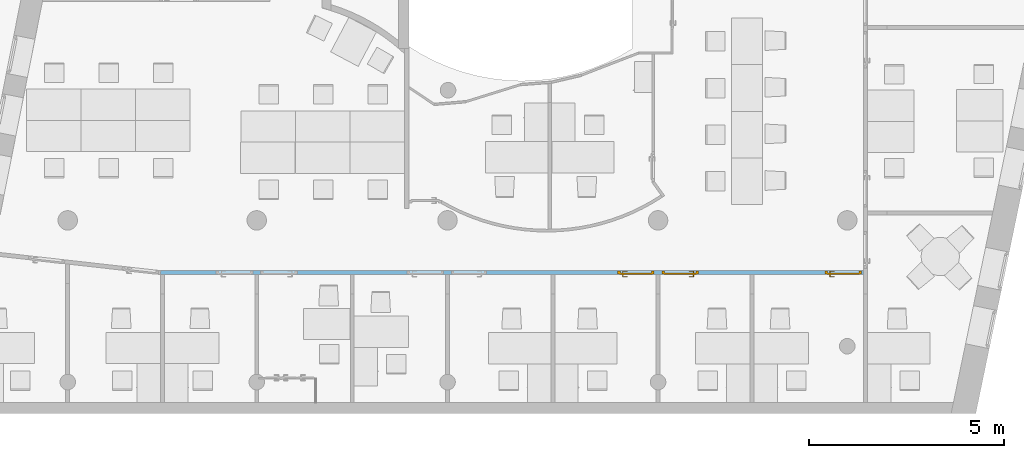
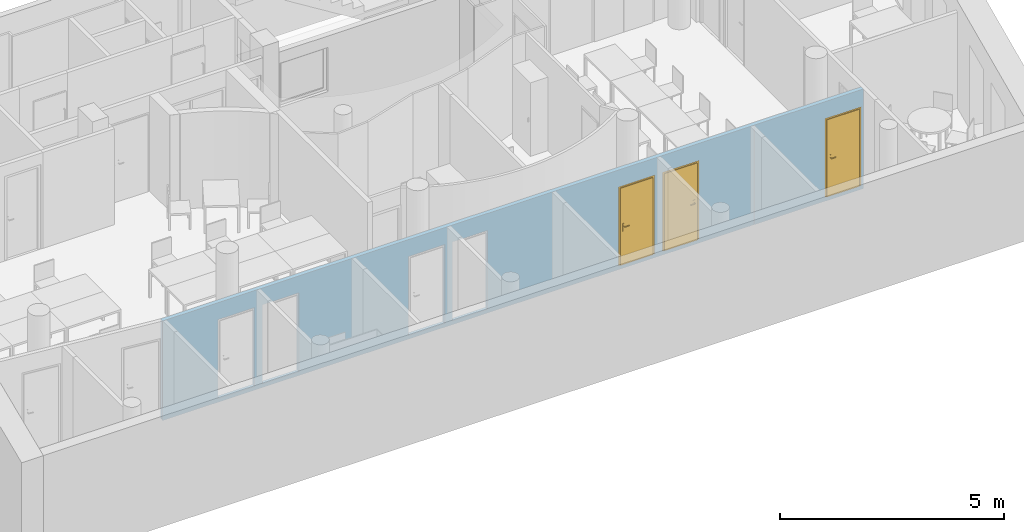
"""IFC4 building model written with IfcOpenShell, lengths in metres."""

from ifc_helpers import new_model, entity, si_unit, converted_unit, derived_unit, frame, origin, origin_with_axes, place, context, subcontext, project, spatial, polyline, outline, extrude, faceted_brep, source, transform, mapped, material, layer, layer_set, layer_usage, element, fill, save


model = new_model("IFC4")

# Units and contexts
model_context = context("Model", 3, precision=1e-05, world=origin())
body_context = subcontext(model_context, "Body", "Model", "MODEL_VIEW")
ifc_project = project(units=[si_unit("LENGTHUNIT", "METRE"), si_unit("AREAUNIT", "SQUARE_METRE"), si_unit("VOLUMEUNIT", "CUBIC_METRE"), si_unit("MASSUNIT", "GRAM", prefix="KILO"), converted_unit("PLANEANGLEUNIT", "DEGREE", entity("IfcPlaneAngleMeasure", 0.0174532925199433), si_unit("PLANEANGLEUNIT", "RADIAN"), dimensions=[0, 0, 0, 0, 0, 0, 0]), derived_unit("THERMALTRANSMITTANCEUNIT", [(si_unit("POWERUNIT", "WATT"), 1), (si_unit("THERMODYNAMICTEMPERATUREUNIT", "KELVIN"), -1), (si_unit("LENGTHUNIT", "METRE"), -2)]), derived_unit("VOLUMETRICFLOWRATEUNIT", [(si_unit("LENGTHUNIT", "METRE"), 3), (converted_unit("TIMEUNIT", "hour", entity("IfcTimeMeasure", 3600.0), si_unit("TIMEUNIT", "SECOND"), dimensions=[0, 0, 1, 0, 0, 0, 0]), -1), (si_unit("LENGTHUNIT", "METRE"), -1)])], contexts=[model_context])

# Building, storeys
building_placement = place(None, origin())
building = spatial("IfcBuilding", under=ifc_project, at=building_placement, Name="HABITATGE PLURIFAMILIAR", CompositionType="ELEMENT")
storey_1_placement = place(building_placement, frame((0.0, 0.0, 6.25)))
storey_1 = spatial("IfcBuildingStorey", under=building, at=storey_1_placement, Name="PLANTA PRIMERA", CompositionType="ELEMENT", Elevation=6.25)
storey_2_placement = place(storey_1_placement, frame((0.0, 0.0, 3.35)))
storey_2 = spatial("IfcBuildingStorey", under=storey_1, at=storey_2_placement, Name="NOU", CompositionType="PARTIAL")

# Wall, openings, doors
ifc_material = material()
ifc_layer = layer(ifc_material, 0.1)
ifc_layer_set = layer_set([ifc_layer])
ifc_layer_usage = layer_usage(ifc_layer_set, "AXIS2", "POSITIVE", 0.0)
wall_placement = place(storey_2_placement, frame((421.406984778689, 16.5094598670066, -3.45), z_axis=(0.0, 0.0, 1.0), x_axis=(-1.0, 0.0, 0.0)))
wall = element("IfcWall", 1, at=wall_placement, inside=storey_2, material=ifc_layer_usage, Name="Mampara P1", context=body_context, shape_type="SweptSolid", body=[
    extrude(outline(polyline([(-18.0374183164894, -0.1), (-0.00561454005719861, -0.1), (0.0, 0.0), (-15.1276972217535, 0.0), (-15.1276972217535, -0.000949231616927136), (-15.2276972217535, -0.000949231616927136), (-15.2276972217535, 0.0), (-18.0374183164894, 0.0), (-18.0374183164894, -0.1)])), frame((18.0374183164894, 0.1, 0.0), z_axis=(0.0, 0.0, 1.0), x_axis=(1.0, 0.0, 0.0)), (0.0, 0.0, 1.0), 2.71),
])
opening_1_placement = place(wall_placement, frame((0.99, 0.1, 0.1), z_axis=(0.0, -1.0, 0.0), x_axis=(0.0, 0.0, 1.0)))
opening_1 = element("IfcOpeningElement", 2, at=opening_1_placement, cuts=wall, Name="Vano de puerta P1", ObjectType="Opening", context=body_context, shape_type="SweptSolid", body=[
    extrude(outline(polyline([(2.15, 0.94), (2.15, 0.0), (0.0, 0.0), (0.0, 0.94), (2.15, 0.94)])), origin_with_axes(), (0.0, 0.0, 1.0), 0.1),
])
opening_2_placement = place(wall_placement, frame((4.22887875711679, 0.0, 0.1), z_axis=(0.0, 1.0, 0.0), x_axis=(0.0, 0.0, 1.0)))
opening_2 = element("IfcOpeningElement", 3, at=opening_2_placement, cuts=wall, Name="Vano de puerta P1", ObjectType="Opening", context=body_context, shape_type="SweptSolid", body=[
    extrude(outline(polyline([(2.15, 0.94), (2.15, 0.0), (0.0, 0.0), (0.0, 0.94), (2.15, 0.94)])), origin_with_axes(), (0.0, 0.0, 1.0), 0.1),
])
opening_3_placement = place(wall_placement, frame((5.36887875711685, 0.0, 0.1), z_axis=(0.0, 1.0, 0.0), x_axis=(0.0, 0.0, 1.0)))
opening_3 = element("IfcOpeningElement", 4, at=opening_3_placement, cuts=wall, Name="Vano de puerta P1", ObjectType="Opening", context=body_context, shape_type="SweptSolid", body=[
    extrude(outline(polyline([(2.15, 0.94), (2.15, 0.0), (0.0, 0.0), (0.0, 0.94), (2.15, 0.94)])), origin_with_axes(), (0.0, 0.0, 1.0), 0.1),
])
opening_4_placement = place(wall_placement, frame((9.6709060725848, 0.0, 0.1), z_axis=(0.0, 1.0, 0.0), x_axis=(0.0, 0.0, 1.0)))
element("IfcOpeningElement", 5, at=opening_4_placement, cuts=wall, Name="Vano de puerta P1", ObjectType="Opening", context=body_context, shape_type="SweptSolid", body=[
    extrude(outline(polyline([(2.15, 0.899999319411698), (2.15, 0.0), (0.0, 0.0), (0.0, 0.899999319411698), (2.15, 0.899999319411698)])), origin_with_axes(), (0.0, 0.0, 1.0), 0.1),
])
opening_5_placement = place(wall_placement, frame((10.7720101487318, 0.0, 0.1), z_axis=(0.0, 1.0, 0.0), x_axis=(0.0, 0.0, 1.0)))
element("IfcOpeningElement", 6, at=opening_5_placement, cuts=wall, Name="Vano de puerta P1", ObjectType="Opening", context=body_context, shape_type="SweptSolid", body=[
    extrude(outline(polyline([(2.15, 0.94), (2.15, 0.0), (0.0, 0.0), (0.0, 0.94), (2.15, 0.94)])), origin_with_axes(), (0.0, 0.0, 1.0), 0.1),
])
opening_6_placement = place(wall_placement, frame((14.5286824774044, 0.0, 0.1), z_axis=(0.0, 1.0, 0.0), x_axis=(0.0, 0.0, 1.0)))
element("IfcOpeningElement", 7, at=opening_6_placement, cuts=wall, Name="Vano de puerta P1", ObjectType="Opening", context=body_context, shape_type="SweptSolid", body=[
    extrude(outline(polyline([(2.15, 0.94), (2.15, 0.0), (0.0, 0.0), (0.0, 0.94), (2.15, 0.94)])), origin_with_axes(), (0.0, 0.0, 1.0), 0.1),
])
opening_7_placement = place(wall_placement, frame((15.6697872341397, 0.0, 0.1), z_axis=(0.0, 1.0, 0.0), x_axis=(0.0, 0.0, 1.0)))
element("IfcOpeningElement", 8, at=opening_7_placement, cuts=wall, Name="Vano de puerta P1", ObjectType="Opening", context=body_context, shape_type="SweptSolid", body=[
    extrude(outline(polyline([(2.15, 0.94), (2.15, 0.0), (0.0, 0.0), (0.0, 0.94), (2.15, 0.94)])), origin_with_axes(), (0.0, 0.0, 1.0), 0.1),
])
shared_shape_1 = source(origin_with_axes(), body_context, "Body", "Brep", [
    faceted_brep([(0.94, 0.07, 2.15), (0.87, 0.07, 2.15), (0.87, 0.07, 0.0), (0.94, 0.07, 0.0), (0.94, 0.0, 0.0), (0.87, 0.0, 0.0), (0.87, 0.0, 2.15), (0.94, 0.0, 2.15)], [[[0, 1, 2, 3]], [[4, 5, 6, 7]], [[3, 4, 7, 0]], [[2, 5, 4, 3]], [[1, 6, 5, 2]], [[0, 7, 6, 1]]], orient=[[False], [False], [False], [False], [False], [False]]),
    faceted_brep([(0.07, 0.07, 2.15), (0.0, 0.07, 2.15), (0.0, 0.07, 0.0), (0.07, 0.07, 0.0), (0.07, 0.0, 0.0), (0.0, 0.0, 0.0), (0.0, 0.0, 2.15), (0.07, 0.0, 2.15)], [[[0, 1, 2, 3]], [[4, 5, 6, 7]], [[3, 4, 7, 0]], [[2, 5, 4, 3]], [[1, 6, 5, 2]], [[0, 7, 6, 1]]], orient=[[False], [False], [False], [False], [False], [False]]),
    faceted_brep([(0.87, 0.07, 2.15), (0.07, 0.07, 2.15), (0.07, 0.07, 2.08), (0.87, 0.07, 2.08), (0.87, 0.0, 2.08), (0.07, 0.0, 2.08), (0.07, 0.0, 2.15), (0.87, 0.0, 2.15)], [[[0, 1, 2, 3]], [[4, 5, 6, 7]], [[3, 4, 7, 0]], [[2, 5, 4, 3]], [[1, 6, 5, 2]], [[0, 7, 6, 1]]], orient=[[False], [False], [False], [False], [False], [False]]),
    faceted_brep([(0.89, 0.09, 2.1), (0.05, 0.09, 2.1), (0.05, 0.09, 0.0), (0.89, 0.09, 0.0), (0.89, 0.05, 0.0), (0.05, 0.05, 0.0), (0.05, 0.05, 2.1), (0.89, 0.05, 2.1)], [[[0, 1, 2, 3]], [[4, 5, 6, 7]], [[3, 4, 7, 0]], [[2, 5, 4, 3]], [[1, 6, 5, 2]], [[0, 7, 6, 1]]], orient=[[False], [False], [False], [False], [False], [False]]),
    faceted_brep([(0.83, 0.05, 1.125), (0.78, 0.05, 1.125), (0.78, 0.05, 0.91), (0.83, 0.05, 0.91), (0.83, 0.04, 0.91), (0.78, 0.04, 0.91), (0.78, 0.04, 1.125), (0.83, 0.04, 1.125)], [[[0, 1, 2, 3]], [[4, 5, 6, 7]], [[3, 4, 7, 0]], [[2, 5, 4, 3]], [[1, 6, 5, 2]], [[0, 7, 6, 1]]], orient=[[False], [False], [False], [False], [False], [False]]),
    faceted_brep([(0.805, 0.04, 1.06), (0.8, 0.04, 1.05866025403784), (0.796339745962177, 0.04, 1.055), (0.795, 0.04, 1.05), (0.796339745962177, 0.04, 1.045), (0.8, 0.04, 1.04133974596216), (0.805, 0.04, 1.04), (0.81, 0.04, 1.04133974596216), (0.813660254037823, 0.04, 1.045), (0.815, 0.04, 1.05), (0.813660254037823, 0.04, 1.055), (0.81, 0.04, 1.05866025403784), (0.81, -0.005, 1.05866025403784), (0.805, 0.0, 1.06), (0.813660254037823, -0.00866025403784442, 1.055), (0.815, -0.01, 1.05), (0.813660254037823, -0.00866025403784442, 1.045), (0.81, -0.005, 1.04133974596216), (0.805, 0.0, 1.04), (0.8, 0.005, 1.04133974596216), (0.796339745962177, 0.00866025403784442, 1.045), (0.795, 0.01, 1.05), (0.796339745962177, 0.00866025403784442, 1.055), (0.8, 0.005, 1.05866025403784), (0.69, 0.0, 1.06), (0.69, -0.005, 1.05866025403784), (0.69, -0.00866025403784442, 1.055), (0.69, -0.01, 1.05), (0.69, -0.00866025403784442, 1.045), (0.69, -0.005, 1.04133974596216), (0.69, 0.0, 1.04), (0.69, 0.005, 1.04133974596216), (0.69, 0.00866025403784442, 1.045), (0.69, 0.01, 1.05), (0.69, 0.00866025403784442, 1.055), (0.69, 0.005, 1.05866025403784)], [[[0, 1, 2, 3, 4, 5, 6, 7, 8, 9, 10, 11]], [[0, 11, 12, 13]], [[11, 10, 14, 12]], [[10, 9, 15, 14]], [[9, 8, 16, 15]], [[8, 7, 17, 16]], [[7, 6, 18, 17]], [[6, 5, 19, 18]], [[5, 4, 20, 19]], [[4, 3, 21, 20]], [[3, 2, 22, 21]], [[2, 1, 23, 22]], [[1, 0, 13, 23]], [[24, 25, 26, 27, 28, 29, 30, 31, 32, 33, 34, 35]], [[13, 12, 25, 24]], [[12, 14, 26, 25]], [[14, 15, 27, 26]], [[15, 16, 28, 27]], [[16, 17, 29, 28]], [[17, 18, 30, 29]], [[18, 19, 31, 30]], [[19, 20, 32, 31]], [[20, 21, 33, 32]], [[21, 22, 34, 33]], [[22, 23, 35, 34]], [[23, 13, 24, 35]]], orient=[[False], [False], [False], [False], [False], [False], [False], [False], [False], [False], [False], [False], [False], [False], [False], [False], [False], [False], [False], [False], [False], [False], [False], [False], [False], [False]]),
    faceted_brep([(0.83, 0.09, 1.125), (0.83, 0.09, 0.91), (0.78, 0.09, 0.91), (0.78, 0.09, 1.125), (0.83, 0.1, 0.91), (0.83, 0.1, 1.125), (0.78, 0.1, 1.125), (0.78, 0.1, 0.91)], [[[0, 1, 2, 3]], [[4, 5, 6, 7]], [[1, 0, 5, 4]], [[2, 1, 4, 7]], [[3, 2, 7, 6]], [[0, 3, 6, 5]]], orient=[[False], [False], [False], [False], [False], [False]]),
    faceted_brep([(0.805, 0.1, 1.06), (0.81, 0.1, 1.05866025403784), (0.813660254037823, 0.1, 1.055), (0.815, 0.1, 1.05), (0.813660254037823, 0.1, 1.045), (0.81, 0.1, 1.04133974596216), (0.805, 0.1, 1.04), (0.8, 0.1, 1.04133974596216), (0.796339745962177, 0.1, 1.045), (0.795, 0.1, 1.05), (0.796339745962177, 0.1, 1.055), (0.8, 0.1, 1.05866025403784), (0.805, 0.14, 1.06), (0.81, 0.145, 1.05866025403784), (0.813660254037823, 0.148660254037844, 1.055), (0.815, 0.15, 1.05), (0.813660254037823, 0.148660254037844, 1.045), (0.81, 0.145, 1.04133974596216), (0.805, 0.14, 1.04), (0.8, 0.135, 1.04133974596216), (0.796339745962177, 0.131339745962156, 1.045), (0.795, 0.13, 1.05), (0.796339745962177, 0.131339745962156, 1.055), (0.8, 0.135, 1.05866025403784), (0.69, 0.14, 1.06), (0.69, 0.135, 1.05866025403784), (0.69, 0.131339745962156, 1.055), (0.69, 0.13, 1.05), (0.69, 0.131339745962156, 1.045), (0.69, 0.135, 1.04133974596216), (0.69, 0.14, 1.04), (0.69, 0.145, 1.04133974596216), (0.69, 0.148660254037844, 1.045), (0.69, 0.15, 1.05), (0.69, 0.148660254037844, 1.055), (0.69, 0.145, 1.05866025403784)], [[[0, 1, 2, 3, 4, 5, 6, 7, 8, 9, 10, 11]], [[0, 12, 13, 1]], [[1, 13, 14, 2]], [[2, 14, 15, 3]], [[3, 15, 16, 4]], [[4, 16, 17, 5]], [[5, 17, 18, 6]], [[6, 18, 19, 7]], [[7, 19, 20, 8]], [[8, 20, 21, 9]], [[9, 21, 22, 10]], [[10, 22, 23, 11]], [[11, 23, 12, 0]], [[24, 25, 26, 27, 28, 29, 30, 31, 32, 33, 34, 35]], [[12, 24, 35, 13]], [[13, 35, 34, 14]], [[14, 34, 33, 15]], [[15, 33, 32, 16]], [[16, 32, 31, 17]], [[17, 31, 30, 18]], [[18, 30, 29, 19]], [[19, 29, 28, 20]], [[20, 28, 27, 21]], [[21, 27, 26, 22]], [[22, 26, 25, 23]], [[23, 25, 24, 12]]], orient=[[False], [False], [False], [False], [False], [False], [False], [False], [False], [False], [False], [False], [False], [False], [False], [False], [False], [False], [False], [False], [False], [False], [False], [False], [False], [False]]),
])
door_1_placement = place(opening_1_placement, frame((0.0, 0.94, 0.085), z_axis=(1.0, 0.0, 0.0), x_axis=(0.0, -1.0, 0.0)))
door_1 = element("IfcDoor", 9, at=door_1_placement, inside=storey_2, Name="Porta P1", OperationType="USERDEFINED", OverallHeight=2.15, OverallWidth=0.94, PredefinedType="DOOR", context=body_context, shape_type="MappedRepresentation", body=[
    mapped(shared_shape_1, transform((0.0, 0.0, 0.0), x_axis=(1.0, 0.0, 0.0), y_axis=(0.0, 1.0, 0.0), z_axis=(0.0, 0.0, 1.0), scale=1.0)),
])
fill(opening_1, door_1)
shared_shape_2 = source(origin_with_axes(), body_context, "Body", "Brep", [
    faceted_brep([(0.0, 0.07, 2.15), (0.0, 0.07, 0.0), (0.07, 0.07, 0.0), (0.07, 0.07, 2.15), (0.0, 0.0, 0.0), (0.0, 0.0, 2.15), (0.07, 0.0, 2.15), (0.07, 0.0, 0.0)], [[[0, 1, 2, 3]], [[4, 5, 6, 7]], [[1, 0, 5, 4]], [[2, 1, 4, 7]], [[3, 2, 7, 6]], [[0, 3, 6, 5]]], orient=[[False], [False], [False], [False], [False], [False]]),
    faceted_brep([(0.87, 0.07, 2.15), (0.87, 0.07, 0.0), (0.94, 0.07, 0.0), (0.94, 0.07, 2.15), (0.87, 0.0, 0.0), (0.87, 0.0, 2.15), (0.94, 0.0, 2.15), (0.94, 0.0, 0.0)], [[[0, 1, 2, 3]], [[4, 5, 6, 7]], [[1, 0, 5, 4]], [[2, 1, 4, 7]], [[3, 2, 7, 6]], [[0, 3, 6, 5]]], orient=[[False], [False], [False], [False], [False], [False]]),
    faceted_brep([(0.07, 0.07, 2.15), (0.07, 0.07, 2.08), (0.87, 0.07, 2.08), (0.87, 0.07, 2.15), (0.07, 0.0, 2.08), (0.07, 0.0, 2.15), (0.87, 0.0, 2.15), (0.87, 0.0, 2.08)], [[[0, 1, 2, 3]], [[4, 5, 6, 7]], [[1, 0, 5, 4]], [[2, 1, 4, 7]], [[3, 2, 7, 6]], [[0, 3, 6, 5]]], orient=[[False], [False], [False], [False], [False], [False]]),
    faceted_brep([(0.05, 0.09, 2.1), (0.05, 0.09, 0.0), (0.89, 0.09, 0.0), (0.89, 0.09, 2.1), (0.05, 0.05, 0.0), (0.05, 0.05, 2.1), (0.89, 0.05, 2.1), (0.89, 0.05, 0.0)], [[[0, 1, 2, 3]], [[4, 5, 6, 7]], [[1, 0, 5, 4]], [[2, 1, 4, 7]], [[3, 2, 7, 6]], [[0, 3, 6, 5]]], orient=[[False], [False], [False], [False], [False], [False]]),
    faceted_brep([(0.11, 0.05, 1.125), (0.11, 0.05, 0.91), (0.16, 0.05, 0.91), (0.16, 0.05, 1.125), (0.11, 0.04, 0.91), (0.11, 0.04, 1.125), (0.16, 0.04, 1.125), (0.16, 0.04, 0.91)], [[[0, 1, 2, 3]], [[4, 5, 6, 7]], [[1, 0, 5, 4]], [[2, 1, 4, 7]], [[3, 2, 7, 6]], [[0, 3, 6, 5]]], orient=[[False], [False], [False], [False], [False], [False]]),
    faceted_brep([(0.135, 0.04, 1.06), (0.13, 0.04, 1.05866025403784), (0.126339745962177, 0.04, 1.055), (0.125, 0.04, 1.05), (0.126339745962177, 0.04, 1.045), (0.13, 0.04, 1.04133974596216), (0.135, 0.04, 1.04), (0.14, 0.04, 1.04133974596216), (0.143660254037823, 0.04, 1.045), (0.145, 0.04, 1.05), (0.143660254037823, 0.04, 1.055), (0.14, 0.04, 1.05866025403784), (0.135, 0.0, 1.06), (0.13, -0.005, 1.05866025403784), (0.126339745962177, -0.00866025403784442, 1.055), (0.125, -0.01, 1.05), (0.126339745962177, -0.00866025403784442, 1.045), (0.13, -0.005, 1.04133974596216), (0.135, 0.0, 1.04), (0.14, 0.005, 1.04133974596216), (0.143660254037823, 0.00866025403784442, 1.045), (0.145, 0.01, 1.05), (0.143660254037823, 0.00866025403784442, 1.055), (0.14, 0.005, 1.05866025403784), (0.25, 0.0, 1.06), (0.25, 0.005, 1.05866025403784), (0.25, 0.00866025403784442, 1.055), (0.25, 0.01, 1.05), (0.25, 0.00866025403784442, 1.045), (0.25, 0.005, 1.04133974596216), (0.25, 0.0, 1.04), (0.25, -0.005, 1.04133974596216), (0.25, -0.00866025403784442, 1.045), (0.25, -0.01, 1.05), (0.25, -0.00866025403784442, 1.055), (0.25, -0.005, 1.05866025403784)], [[[0, 1, 2, 3, 4, 5, 6, 7, 8, 9, 10, 11]], [[0, 12, 13, 1]], [[1, 13, 14, 2]], [[2, 14, 15, 3]], [[3, 15, 16, 4]], [[4, 16, 17, 5]], [[5, 17, 18, 6]], [[6, 18, 19, 7]], [[7, 19, 20, 8]], [[8, 20, 21, 9]], [[9, 21, 22, 10]], [[10, 22, 23, 11]], [[11, 23, 12, 0]], [[24, 25, 26, 27, 28, 29, 30, 31, 32, 33, 34, 35]], [[12, 24, 35, 13]], [[13, 35, 34, 14]], [[14, 34, 33, 15]], [[15, 33, 32, 16]], [[16, 32, 31, 17]], [[17, 31, 30, 18]], [[18, 30, 29, 19]], [[19, 29, 28, 20]], [[20, 28, 27, 21]], [[21, 27, 26, 22]], [[22, 26, 25, 23]], [[23, 25, 24, 12]]], orient=[[False], [False], [False], [False], [False], [False], [False], [False], [False], [False], [False], [False], [False], [False], [False], [False], [False], [False], [False], [False], [False], [False], [False], [False], [False], [False]]),
    faceted_brep([(0.11, 0.09, 1.125), (0.16, 0.09, 1.125), (0.16, 0.09, 0.91), (0.11, 0.09, 0.91), (0.11, 0.1, 0.91), (0.16, 0.1, 0.91), (0.16, 0.1, 1.125), (0.11, 0.1, 1.125)], [[[0, 1, 2, 3]], [[4, 5, 6, 7]], [[3, 4, 7, 0]], [[2, 5, 4, 3]], [[1, 6, 5, 2]], [[0, 7, 6, 1]]], orient=[[False], [False], [False], [False], [False], [False]]),
    faceted_brep([(0.135, 0.1, 1.06), (0.14, 0.1, 1.05866025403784), (0.143660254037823, 0.1, 1.055), (0.145, 0.1, 1.05), (0.143660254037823, 0.1, 1.045), (0.14, 0.1, 1.04133974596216), (0.135, 0.1, 1.04), (0.13, 0.1, 1.04133974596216), (0.126339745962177, 0.1, 1.045), (0.125, 0.1, 1.05), (0.126339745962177, 0.1, 1.055), (0.13, 0.1, 1.05866025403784), (0.13, 0.145, 1.05866025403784), (0.135, 0.14, 1.06), (0.126339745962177, 0.148660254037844, 1.055), (0.125, 0.15, 1.05), (0.126339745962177, 0.148660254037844, 1.045), (0.13, 0.145, 1.04133974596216), (0.135, 0.14, 1.04), (0.14, 0.135, 1.04133974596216), (0.143660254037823, 0.131339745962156, 1.045), (0.145, 0.13, 1.05), (0.143660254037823, 0.131339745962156, 1.055), (0.14, 0.135, 1.05866025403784), (0.25, 0.14, 1.06), (0.25, 0.145, 1.05866025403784), (0.25, 0.148660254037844, 1.055), (0.25, 0.15, 1.05), (0.25, 0.148660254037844, 1.045), (0.25, 0.145, 1.04133974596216), (0.25, 0.14, 1.04), (0.25, 0.135, 1.04133974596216), (0.25, 0.131339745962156, 1.045), (0.25, 0.13, 1.05), (0.25, 0.131339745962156, 1.055), (0.25, 0.135, 1.05866025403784)], [[[0, 1, 2, 3, 4, 5, 6, 7, 8, 9, 10, 11]], [[0, 11, 12, 13]], [[11, 10, 14, 12]], [[10, 9, 15, 14]], [[9, 8, 16, 15]], [[8, 7, 17, 16]], [[7, 6, 18, 17]], [[6, 5, 19, 18]], [[5, 4, 20, 19]], [[4, 3, 21, 20]], [[3, 2, 22, 21]], [[2, 1, 23, 22]], [[1, 0, 13, 23]], [[24, 25, 26, 27, 28, 29, 30, 31, 32, 33, 34, 35]], [[13, 12, 25, 24]], [[12, 14, 26, 25]], [[14, 15, 27, 26]], [[15, 16, 28, 27]], [[16, 17, 29, 28]], [[17, 18, 30, 29]], [[18, 19, 31, 30]], [[19, 20, 32, 31]], [[20, 21, 33, 32]], [[21, 22, 34, 33]], [[22, 23, 35, 34]], [[23, 13, 24, 35]]], orient=[[False], [False], [False], [False], [False], [False], [False], [False], [False], [False], [False], [False], [False], [False], [False], [False], [False], [False], [False], [False], [False], [False], [False], [False], [False], [False]]),
])
door_2_placement = place(opening_2_placement, frame((0.0, 0.0, 0.015), z_axis=(1.0, 0.0, 0.0), x_axis=(0.0, 1.0, 0.0)))
door_2 = element("IfcDoor", 10, at=door_2_placement, inside=storey_2, Name="Porta P1", OperationType="USERDEFINED", OverallHeight=2.15, OverallWidth=0.94, PredefinedType="DOOR", context=body_context, shape_type="MappedRepresentation", body=[
    mapped(shared_shape_2, transform((0.0, 0.0, 0.0), x_axis=(1.0, 0.0, 0.0), y_axis=(0.0, 1.0, 0.0), z_axis=(0.0, 0.0, 1.0), scale=1.0)),
])
fill(opening_2, door_2)
shared_shape_3 = source(origin_with_axes(), body_context, "Body", "Brep", [
    faceted_brep([(0.94, 0.07, 2.15), (0.87, 0.07, 2.15), (0.87, 0.07, 0.0), (0.94, 0.07, 0.0), (0.94, 0.0, 0.0), (0.87, 0.0, 0.0), (0.87, 0.0, 2.15), (0.94, 0.0, 2.15)], [[[0, 1, 2, 3]], [[4, 5, 6, 7]], [[3, 4, 7, 0]], [[2, 5, 4, 3]], [[1, 6, 5, 2]], [[0, 7, 6, 1]]], orient=[[False], [False], [False], [False], [False], [False]]),
    faceted_brep([(0.07, 0.07, 2.15), (0.0, 0.07, 2.15), (0.0, 0.07, 0.0), (0.07, 0.07, 0.0), (0.07, 0.0, 0.0), (0.0, 0.0, 0.0), (0.0, 0.0, 2.15), (0.07, 0.0, 2.15)], [[[0, 1, 2, 3]], [[4, 5, 6, 7]], [[3, 4, 7, 0]], [[2, 5, 4, 3]], [[1, 6, 5, 2]], [[0, 7, 6, 1]]], orient=[[False], [False], [False], [False], [False], [False]]),
    faceted_brep([(0.87, 0.07, 2.15), (0.07, 0.07, 2.15), (0.07, 0.07, 2.08), (0.87, 0.07, 2.08), (0.87, 0.0, 2.08), (0.07, 0.0, 2.08), (0.07, 0.0, 2.15), (0.87, 0.0, 2.15)], [[[0, 1, 2, 3]], [[4, 5, 6, 7]], [[3, 4, 7, 0]], [[2, 5, 4, 3]], [[1, 6, 5, 2]], [[0, 7, 6, 1]]], orient=[[False], [False], [False], [False], [False], [False]]),
    faceted_brep([(0.89, 0.09, 2.1), (0.05, 0.09, 2.1), (0.05, 0.09, 0.0), (0.89, 0.09, 0.0), (0.89, 0.05, 0.0), (0.05, 0.05, 0.0), (0.05, 0.05, 2.1), (0.89, 0.05, 2.1)], [[[0, 1, 2, 3]], [[4, 5, 6, 7]], [[3, 4, 7, 0]], [[2, 5, 4, 3]], [[1, 6, 5, 2]], [[0, 7, 6, 1]]], orient=[[False], [False], [False], [False], [False], [False]]),
    faceted_brep([(0.83, 0.05, 1.125), (0.78, 0.05, 1.125), (0.78, 0.05, 0.91), (0.83, 0.05, 0.91), (0.83, 0.04, 0.91), (0.78, 0.04, 0.91), (0.78, 0.04, 1.125), (0.83, 0.04, 1.125)], [[[0, 1, 2, 3]], [[4, 5, 6, 7]], [[3, 4, 7, 0]], [[2, 5, 4, 3]], [[1, 6, 5, 2]], [[0, 7, 6, 1]]], orient=[[False], [False], [False], [False], [False], [False]]),
    faceted_brep([(0.805, 0.04, 1.06), (0.8, 0.04, 1.05866025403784), (0.796339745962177, 0.04, 1.055), (0.795, 0.04, 1.05), (0.796339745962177, 0.04, 1.045), (0.8, 0.04, 1.04133974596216), (0.805, 0.04, 1.04), (0.81, 0.04, 1.04133974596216), (0.813660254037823, 0.04, 1.045), (0.815, 0.04, 1.05), (0.813660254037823, 0.04, 1.055), (0.81, 0.04, 1.05866025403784), (0.81, -0.005, 1.05866025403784), (0.805, 0.0, 1.06), (0.813660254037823, -0.00866025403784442, 1.055), (0.815, -0.01, 1.05), (0.813660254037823, -0.00866025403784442, 1.045), (0.81, -0.005, 1.04133974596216), (0.805, 0.0, 1.04), (0.8, 0.005, 1.04133974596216), (0.796339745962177, 0.00866025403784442, 1.045), (0.795, 0.01, 1.05), (0.796339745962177, 0.00866025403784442, 1.055), (0.8, 0.005, 1.05866025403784), (0.69, 0.0, 1.06), (0.69, -0.005, 1.05866025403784), (0.69, -0.00866025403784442, 1.055), (0.69, -0.01, 1.05), (0.69, -0.00866025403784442, 1.045), (0.69, -0.005, 1.04133974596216), (0.69, 0.0, 1.04), (0.69, 0.005, 1.04133974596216), (0.69, 0.00866025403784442, 1.045), (0.69, 0.01, 1.05), (0.69, 0.00866025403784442, 1.055), (0.69, 0.005, 1.05866025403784)], [[[0, 1, 2, 3, 4, 5, 6, 7, 8, 9, 10, 11]], [[0, 11, 12, 13]], [[11, 10, 14, 12]], [[10, 9, 15, 14]], [[9, 8, 16, 15]], [[8, 7, 17, 16]], [[7, 6, 18, 17]], [[6, 5, 19, 18]], [[5, 4, 20, 19]], [[4, 3, 21, 20]], [[3, 2, 22, 21]], [[2, 1, 23, 22]], [[1, 0, 13, 23]], [[24, 25, 26, 27, 28, 29, 30, 31, 32, 33, 34, 35]], [[13, 12, 25, 24]], [[12, 14, 26, 25]], [[14, 15, 27, 26]], [[15, 16, 28, 27]], [[16, 17, 29, 28]], [[17, 18, 30, 29]], [[18, 19, 31, 30]], [[19, 20, 32, 31]], [[20, 21, 33, 32]], [[21, 22, 34, 33]], [[22, 23, 35, 34]], [[23, 13, 24, 35]]], orient=[[False], [False], [False], [False], [False], [False], [False], [False], [False], [False], [False], [False], [False], [False], [False], [False], [False], [False], [False], [False], [False], [False], [False], [False], [False], [False]]),
    faceted_brep([(0.83, 0.09, 1.125), (0.83, 0.09, 0.91), (0.78, 0.09, 0.91), (0.78, 0.09, 1.125), (0.83, 0.1, 0.91), (0.83, 0.1, 1.125), (0.78, 0.1, 1.125), (0.78, 0.1, 0.91)], [[[0, 1, 2, 3]], [[4, 5, 6, 7]], [[1, 0, 5, 4]], [[2, 1, 4, 7]], [[3, 2, 7, 6]], [[0, 3, 6, 5]]], orient=[[False], [False], [False], [False], [False], [False]]),
    faceted_brep([(0.805, 0.1, 1.06), (0.81, 0.1, 1.05866025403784), (0.813660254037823, 0.1, 1.055), (0.815, 0.1, 1.05), (0.813660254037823, 0.1, 1.045), (0.81, 0.1, 1.04133974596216), (0.805, 0.1, 1.04), (0.8, 0.1, 1.04133974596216), (0.796339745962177, 0.1, 1.045), (0.795, 0.1, 1.05), (0.796339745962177, 0.1, 1.055), (0.8, 0.1, 1.05866025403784), (0.805, 0.14, 1.06), (0.81, 0.145, 1.05866025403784), (0.813660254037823, 0.148660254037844, 1.055), (0.815, 0.15, 1.05), (0.813660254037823, 0.148660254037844, 1.045), (0.81, 0.145, 1.04133974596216), (0.805, 0.14, 1.04), (0.8, 0.135, 1.04133974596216), (0.796339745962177, 0.131339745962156, 1.045), (0.795, 0.13, 1.05), (0.796339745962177, 0.131339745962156, 1.055), (0.8, 0.135, 1.05866025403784), (0.69, 0.14, 1.06), (0.69, 0.135, 1.05866025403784), (0.69, 0.131339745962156, 1.055), (0.69, 0.13, 1.05), (0.69, 0.131339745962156, 1.045), (0.69, 0.135, 1.04133974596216), (0.69, 0.14, 1.04), (0.69, 0.145, 1.04133974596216), (0.69, 0.148660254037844, 1.045), (0.69, 0.15, 1.05), (0.69, 0.148660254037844, 1.055), (0.69, 0.145, 1.05866025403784)], [[[0, 1, 2, 3, 4, 5, 6, 7, 8, 9, 10, 11]], [[0, 12, 13, 1]], [[1, 13, 14, 2]], [[2, 14, 15, 3]], [[3, 15, 16, 4]], [[4, 16, 17, 5]], [[5, 17, 18, 6]], [[6, 18, 19, 7]], [[7, 19, 20, 8]], [[8, 20, 21, 9]], [[9, 21, 22, 10]], [[10, 22, 23, 11]], [[11, 23, 12, 0]], [[24, 25, 26, 27, 28, 29, 30, 31, 32, 33, 34, 35]], [[12, 24, 35, 13]], [[13, 35, 34, 14]], [[14, 34, 33, 15]], [[15, 33, 32, 16]], [[16, 32, 31, 17]], [[17, 31, 30, 18]], [[18, 30, 29, 19]], [[19, 29, 28, 20]], [[20, 28, 27, 21]], [[21, 27, 26, 22]], [[22, 26, 25, 23]], [[23, 25, 24, 12]]], orient=[[False], [False], [False], [False], [False], [False], [False], [False], [False], [False], [False], [False], [False], [False], [False], [False], [False], [False], [False], [False], [False], [False], [False], [False], [False], [False]]),
])
door_3_placement = place(opening_3_placement, frame((0.0, 0.0, 0.015), z_axis=(1.0, 0.0, 0.0), x_axis=(0.0, 1.0, 0.0)))
door_3 = element("IfcDoor", 11, at=door_3_placement, inside=storey_2, Name="Porta P1", OperationType="USERDEFINED", OverallHeight=2.15, OverallWidth=0.94, PredefinedType="DOOR", context=body_context, shape_type="MappedRepresentation", body=[
    mapped(shared_shape_3, transform((0.0, 0.0, 0.0), x_axis=(1.0, 0.0, 0.0), y_axis=(0.0, 1.0, 0.0), z_axis=(0.0, 0.0, 1.0), scale=1.0)),
])
fill(opening_3, door_3)

save(model, "model.ifc")
